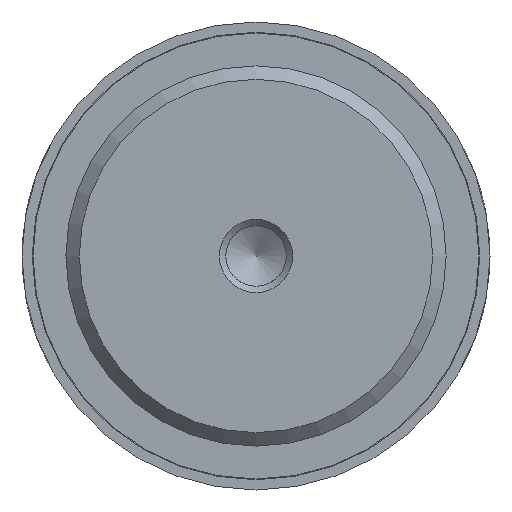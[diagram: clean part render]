
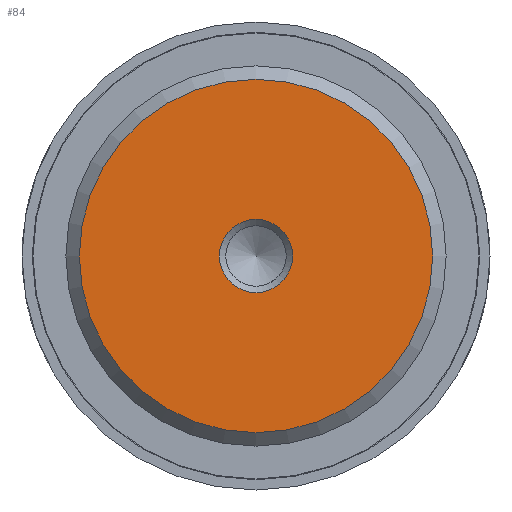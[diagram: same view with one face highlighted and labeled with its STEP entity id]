
A CAD part, front view. The second image highlights one B-rep face of the part: STEP entity #84.
In plain terms, the highlighted planar face has unit normal (0, -1, 0).
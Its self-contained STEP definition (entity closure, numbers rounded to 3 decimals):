
#84 = ADVANCED_FACE( '', ( #135, #136 ), #137, .F. );
#135 = FACE_BOUND( '', #222, .T. );
#136 = FACE_OUTER_BOUND( '', #223, .T. );
#137 = PLANE( '', #224 );
#222 = EDGE_LOOP( '', ( #330 ) );
#223 = EDGE_LOOP( '', ( #331 ) );
#224 = AXIS2_PLACEMENT_3D( '', #332, #333, #334 );
#330 = ORIENTED_EDGE( '', *, *, #484, .F. );
#331 = ORIENTED_EDGE( '', *, *, #485, .T. );
#332 = CARTESIAN_POINT( '', ( 12.08, 0., 0. ) );
#333 = DIRECTION( '', ( 0., 1., 0. ) );
#334 = DIRECTION( '', ( 0., 0., 1. ) );
#484 = EDGE_CURVE( '', #546, #546, #547, .T. );
#485 = EDGE_CURVE( '', #548, #548, #549, .T. );
#546 = VERTEX_POINT( '', #756 );
#547 = CIRCLE( '', #757, 2.5 );
#548 = VERTEX_POINT( '', #758 );
#549 = CIRCLE( '', #759, 12.08 );
#756 = CARTESIAN_POINT( '', ( 2.5, 0., 0. ) );
#757 = AXIS2_PLACEMENT_3D( '', #945, #946, #947 );
#758 = CARTESIAN_POINT( '', ( 0., 0., -12.08 ) );
#759 = AXIS2_PLACEMENT_3D( '', #948, #949, #950 );
#945 = CARTESIAN_POINT( '', ( 0., 0., 0. ) );
#946 = DIRECTION( '', ( 0., -1., 0. ) );
#947 = DIRECTION( '', ( 1., 0., 0. ) );
#948 = CARTESIAN_POINT( '', ( 0., 0., 0. ) );
#949 = DIRECTION( '', ( 0., -1., 0. ) );
#950 = DIRECTION( '', ( 0., 0., -1. ) );
